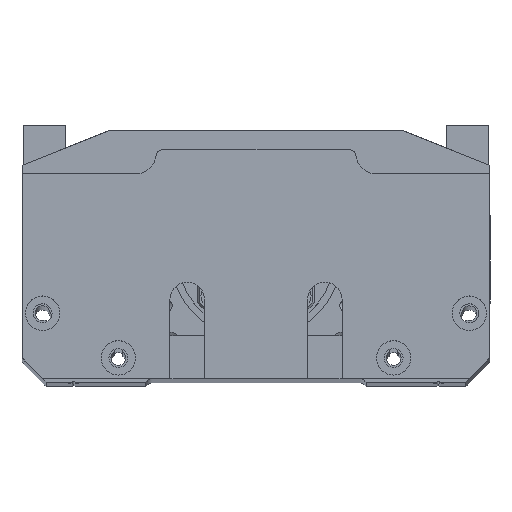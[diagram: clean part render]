
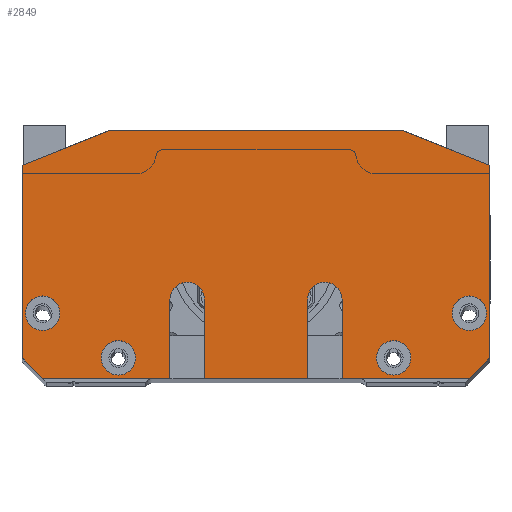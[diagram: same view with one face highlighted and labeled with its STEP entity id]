
A CAD part, top view. The second image highlights one B-rep face of the part: STEP entity #2849.
In plain terms, the highlighted planar face has unit normal (0, 0, 1).
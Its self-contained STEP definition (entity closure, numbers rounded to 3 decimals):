
#883=FACE_BOUND('',#4989,.T.);
#884=FACE_BOUND('',#4990,.T.);
#885=FACE_BOUND('',#4991,.T.);
#886=FACE_BOUND('',#4992,.T.);
#887=FACE_BOUND('',#4993,.T.);
#1988=CIRCLE('',#17848,5.);
#1990=CIRCLE('',#17853,5.);
#2008=CIRCLE('',#17885,5.);
#2009=CIRCLE('',#17886,5.);
#2010=CIRCLE('',#17887,5.);
#2011=CIRCLE('',#17888,5.);
#2849=ADVANCED_FACE('9',(#883,#884,#885,#886,#887),#3482,.T.);
#3482=PLANE('',#17889);
#4989=EDGE_LOOP('',(#8312,#8313,#8314,#8315,#8316,#8317,#8318,#8319,#8320,
#8321,#8322,#8323,#8324,#8325,#8326,#8327));
#4990=EDGE_LOOP('',(#8328));
#4991=EDGE_LOOP('',(#8329));
#4992=EDGE_LOOP('',(#8330));
#4993=EDGE_LOOP('',(#8331));
#8312=ORIENTED_EDGE('',*,*,#13508,.T.);
#8313=ORIENTED_EDGE('',*,*,#13510,.T.);
#8314=ORIENTED_EDGE('',*,*,#13504,.T.);
#8315=ORIENTED_EDGE('',*,*,#12608,.F.);
#8316=ORIENTED_EDGE('',*,*,#13516,.T.);
#8317=ORIENTED_EDGE('',*,*,#13518,.T.);
#8318=ORIENTED_EDGE('',*,*,#13512,.T.);
#8319=ORIENTED_EDGE('',*,*,#12605,.F.);
#8320=ORIENTED_EDGE('',*,*,#12622,.T.);
#8321=ORIENTED_EDGE('',*,*,#12636,.F.);
#8322=ORIENTED_EDGE('',*,*,#13527,.T.);
#8323=ORIENTED_EDGE('',*,*,#13549,.F.);
#8324=ORIENTED_EDGE('',*,*,#13530,.T.);
#8325=ORIENTED_EDGE('',*,*,#12561,.F.);
#8326=ORIENTED_EDGE('',*,*,#12593,.T.);
#8327=ORIENTED_EDGE('',*,*,#12611,.F.);
#8328=ORIENTED_EDGE('',*,*,#13550,.F.);
#8329=ORIENTED_EDGE('',*,*,#13551,.F.);
#8330=ORIENTED_EDGE('',*,*,#13552,.F.);
#8331=ORIENTED_EDGE('',*,*,#13553,.F.);
#10790=VERTEX_POINT('',#24997);
#10791=VERTEX_POINT('',#24999);
#10809=VERTEX_POINT('',#25057);
#10815=VERTEX_POINT('',#25078);
#10816=VERTEX_POINT('',#25080);
#10817=VERTEX_POINT('',#25083);
#10818=VERTEX_POINT('',#25085);
#10819=VERTEX_POINT('',#25088);
#10826=VERTEX_POINT('',#25109);
#10836=VERTEX_POINT('',#25135);
#11378=VERTEX_POINT('',#28709);
#11380=VERTEX_POINT('',#28715);
#11382=VERTEX_POINT('',#28724);
#11384=VERTEX_POINT('',#28730);
#11393=VERTEX_POINT('',#28755);
#11395=VERTEX_POINT('',#28761);
#11405=VERTEX_POINT('',#28801);
#11406=VERTEX_POINT('',#28803);
#11407=VERTEX_POINT('',#28805);
#11408=VERTEX_POINT('',#28807);
#12561=EDGE_CURVE('',#10790,#10791,#14661,.T.);
#12593=EDGE_CURVE('',#10790,#10809,#14683,.T.);
#12605=EDGE_CURVE('',#10815,#10816,#14694,.T.);
#12608=EDGE_CURVE('',#10817,#10818,#14697,.T.);
#12611=EDGE_CURVE('',#10819,#10809,#14700,.T.);
#12622=EDGE_CURVE('',#10815,#10826,#14710,.T.);
#12636=EDGE_CURVE('',#10836,#10826,#14722,.T.);
#13504=EDGE_CURVE('',#11378,#10818,#15150,.T.);
#13508=EDGE_CURVE('',#10819,#11380,#15154,.T.);
#13510=EDGE_CURVE('',#11380,#11378,#1988,.T.);
#13512=EDGE_CURVE('',#11382,#10816,#15156,.T.);
#13516=EDGE_CURVE('',#10817,#11384,#15160,.T.);
#13518=EDGE_CURVE('',#11384,#11382,#1990,.T.);
#13527=EDGE_CURVE('',#10836,#11393,#15165,.T.);
#13530=EDGE_CURVE('',#11395,#10791,#15168,.T.);
#13549=EDGE_CURVE('',#11395,#11393,#15174,.T.);
#13550=EDGE_CURVE('',#11405,#11405,#2008,.T.);
#13551=EDGE_CURVE('',#11406,#11406,#2009,.T.);
#13552=EDGE_CURVE('',#11407,#11407,#2010,.T.);
#13553=EDGE_CURVE('',#11408,#11408,#2011,.T.);
#14661=LINE('',#24998,#15907);
#14683=LINE('',#25058,#15929);
#14694=LINE('',#25079,#15940);
#14697=LINE('',#25084,#15943);
#14700=LINE('',#25089,#15946);
#14710=LINE('',#25110,#15956);
#14722=LINE('',#25136,#15968);
#15150=LINE('',#28708,#16396);
#15154=LINE('',#28716,#16400);
#15156=LINE('',#28723,#16402);
#15160=LINE('',#28731,#16406);
#15165=LINE('',#28754,#16411);
#15168=LINE('',#28760,#16414);
#15174=LINE('',#28799,#16420);
#15907=VECTOR('',#19569,1.);
#15929=VECTOR('',#19629,1.);
#15940=VECTOR('',#19648,1.);
#15943=VECTOR('',#19651,1.);
#15946=VECTOR('',#19654,1.);
#15956=VECTOR('',#19672,1.);
#15968=VECTOR('',#19692,1.);
#16396=VECTOR('',#21454,1.);
#16400=VECTOR('',#21460,1.);
#16402=VECTOR('',#21470,1.);
#16406=VECTOR('',#21476,1.);
#16411=VECTOR('',#21501,1.);
#16414=VECTOR('',#21506,1.);
#16420=VECTOR('',#21558,1.);
#17848=AXIS2_PLACEMENT_3D('',#28719,#21465,#21466);
#17853=AXIS2_PLACEMENT_3D('',#28734,#21481,#21482);
#17885=AXIS2_PLACEMENT_3D('',#28800,#21559,#21560);
#17886=AXIS2_PLACEMENT_3D('',#28802,#21561,#21562);
#17887=AXIS2_PLACEMENT_3D('',#28804,#21563,#21564);
#17888=AXIS2_PLACEMENT_3D('',#28806,#21565,#21566);
#17889=AXIS2_PLACEMENT_3D('',#28808,#21567,#21568);
#19569=DIRECTION('',(0.,1.,0.));
#19629=DIRECTION('',(0.707,-0.707,0.));
#19648=DIRECTION('',(-1.,0.,0.));
#19651=DIRECTION('',(-1.,0.,0.));
#19654=DIRECTION('',(-1.,0.,0.));
#19672=DIRECTION('',(0.707,0.707,0.));
#19692=DIRECTION('',(0.,-1.,0.));
#21454=DIRECTION('',(0.,-1.,0.));
#21460=DIRECTION('',(0.,1.,0.));
#21465=DIRECTION('',(0.,0.,-1.));
#21466=DIRECTION('',(1.,0.,0.));
#21470=DIRECTION('',(0.,-1.,0.));
#21476=DIRECTION('',(0.,1.,0.));
#21481=DIRECTION('',(0.,0.,-1.));
#21482=DIRECTION('',(-1.,0.,0.));
#21501=DIRECTION('',(-0.928,0.371,0.));
#21506=DIRECTION('',(-0.928,-0.371,0.));
#21558=DIRECTION('',(1.,0.,0.));
#21559=DIRECTION('',(0.,0.,1.));
#21560=DIRECTION('',(1.,0.,0.));
#21561=DIRECTION('',(0.,0.,1.));
#21562=DIRECTION('',(1.,0.,0.));
#21563=DIRECTION('',(0.,0.,1.));
#21564=DIRECTION('',(1.,0.,0.));
#21565=DIRECTION('',(0.,0.,1.));
#21566=DIRECTION('',(1.,0.,0.));
#21567=DIRECTION('',(0.,0.,1.));
#21568=DIRECTION('',(-1.,0.,0.));
#24997=CARTESIAN_POINT('',(-68.,6.,382.));
#24998=CARTESIAN_POINT('',(-68.,0.,382.));
#24999=CARTESIAN_POINT('',(-68.,62.,382.));
#25057=CARTESIAN_POINT('',(-62.,0.,382.));
#25058=CARTESIAN_POINT('',(-49.,-13.,382.));
#25078=CARTESIAN_POINT('',(62.,0.,382.));
#25079=CARTESIAN_POINT('',(68.,0.,382.));
#25080=CARTESIAN_POINT('',(25.,0.,382.));
#25083=CARTESIAN_POINT('',(15.,0.,382.));
#25084=CARTESIAN_POINT('',(68.,0.,382.));
#25085=CARTESIAN_POINT('',(-15.,0.,382.));
#25088=CARTESIAN_POINT('',(-25.,0.,382.));
#25089=CARTESIAN_POINT('',(68.,0.,382.));
#25109=CARTESIAN_POINT('',(68.,6.,382.));
#25110=CARTESIAN_POINT('',(49.,-13.,382.));
#25135=CARTESIAN_POINT('',(68.,62.,382.));
#25136=CARTESIAN_POINT('',(68.,0.,382.));
#28708=CARTESIAN_POINT('',(-15.,23.,382.));
#28709=CARTESIAN_POINT('',(-15.,23.,382.));
#28715=CARTESIAN_POINT('',(-25.,23.,382.));
#28716=CARTESIAN_POINT('',(-25.,23.,382.));
#28719=CARTESIAN_POINT('',(-20.,23.,382.));
#28723=CARTESIAN_POINT('',(25.,23.,382.));
#28724=CARTESIAN_POINT('',(25.,23.,382.));
#28730=CARTESIAN_POINT('',(15.,23.,382.));
#28731=CARTESIAN_POINT('',(15.,23.,382.));
#28734=CARTESIAN_POINT('',(20.,23.,382.));
#28754=CARTESIAN_POINT('',(18.345,81.862,382.));
#28755=CARTESIAN_POINT('',(43.,72.,382.));
#28760=CARTESIAN_POINT('',(-18.345,81.862,382.));
#28761=CARTESIAN_POINT('',(-43.,72.,382.));
#28799=CARTESIAN_POINT('',(68.,72.,382.));
#28800=CARTESIAN_POINT('',(-62.,19.,382.));
#28801=CARTESIAN_POINT('',(-57.,19.,382.));
#28802=CARTESIAN_POINT('',(62.,19.,382.));
#28803=CARTESIAN_POINT('',(67.,19.,382.));
#28804=CARTESIAN_POINT('',(-40.,6.,382.));
#28805=CARTESIAN_POINT('',(-35.,6.,382.));
#28806=CARTESIAN_POINT('',(40.,6.,382.));
#28807=CARTESIAN_POINT('',(45.,6.,382.));
#28808=CARTESIAN_POINT('',(0.,36.,382.));
